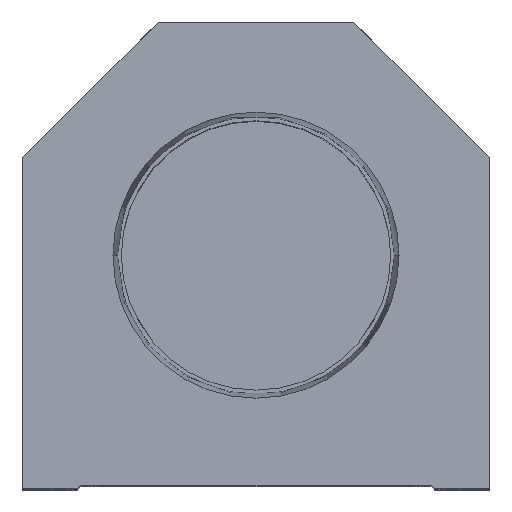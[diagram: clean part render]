
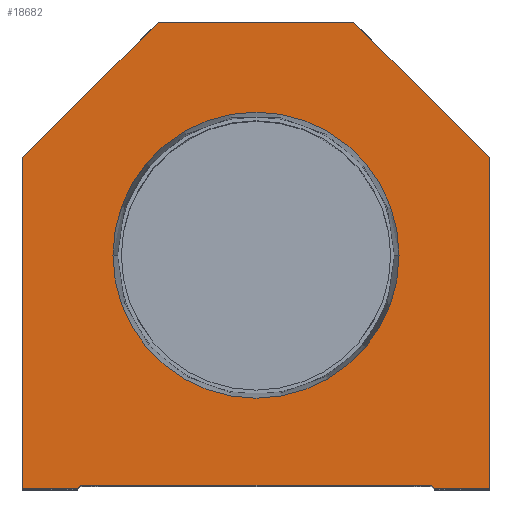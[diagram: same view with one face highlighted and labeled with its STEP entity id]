
A CAD part, top view. The second image highlights one B-rep face of the part: STEP entity #18682.
In plain terms, the highlighted planar face has unit normal (0, 0, 1).
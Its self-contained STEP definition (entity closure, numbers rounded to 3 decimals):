
#614 = DIRECTION ( 'NONE',  ( -0.707, 0.707, 0. ) ) ;
#1215 = ORIENTED_EDGE ( 'NONE', *, *, #19672, .T. ) ;
#1320 = ORIENTED_EDGE ( 'NONE', *, *, #14498, .T. ) ;
#1498 = VERTEX_POINT ( 'NONE', #19626 ) ;
#1716 = DIRECTION ( 'NONE',  ( 1., 0., 0. ) ) ;
#1758 = CARTESIAN_POINT ( 'NONE',  ( -28.6, 0.5, 0. ) ) ;
#1822 = CARTESIAN_POINT ( 'NONE',  ( 16., 76.2, 0. ) ) ;
#2070 = CARTESIAN_POINT ( 'NONE',  ( 28.6, 0.5, 0. ) ) ;
#2121 = VERTEX_POINT ( 'NONE', #2858 ) ;
#2299 = LINE ( 'NONE', #5696, #6453 ) ;
#2461 = CARTESIAN_POINT ( 'NONE',  ( -38.1, 54.1, 0. ) ) ;
#2470 = CARTESIAN_POINT ( 'NONE',  ( -38.1, 54.1, 0. ) ) ;
#2505 = ORIENTED_EDGE ( 'NONE', *, *, #7660, .T. ) ;
#2629 = VERTEX_POINT ( 'NONE', #13919 ) ;
#2662 = DIRECTION ( 'NONE',  ( -0.707, -0.707, 0. ) ) ;
#2858 = CARTESIAN_POINT ( 'NONE',  ( -16., 76.2, 0. ) ) ;
#2916 = CARTESIAN_POINT ( 'NONE',  ( 28.6, 0., 0. ) ) ;
#2929 = VERTEX_POINT ( 'NONE', #5834 ) ;
#3214 = FACE_BOUND ( 'NONE', #9977, .T. ) ;
#3226 = ORIENTED_EDGE ( 'NONE', *, *, #14580, .T. ) ;
#3283 = VECTOR ( 'NONE', #7947, 1000. ) ;
#3464 = ORIENTED_EDGE ( 'NONE', *, *, #4594, .T. ) ;
#3557 = CIRCLE ( 'NONE', #11622, 23.374 ) ;
#3567 = VECTOR ( 'NONE', #16802, 1000. ) ;
#4034 = DIRECTION ( 'NONE',  ( 0., 0., 1. ) ) ;
#4165 = VERTEX_POINT ( 'NONE', #2070 ) ;
#4429 = DIRECTION ( 'NONE',  ( 0.707, -0.707, 0. ) ) ;
#4544 = VERTEX_POINT ( 'NONE', #8872 ) ;
#4560 = CARTESIAN_POINT ( 'NONE',  ( -29.1, 0., 0. ) ) ;
#4594 = EDGE_CURVE ( 'NONE', #4165, #8596, #19813, .T. ) ;
#4610 = VECTOR ( 'NONE', #8267, 1000. ) ;
#4848 = VERTEX_POINT ( 'NONE', #7630 ) ;
#4872 = CIRCLE ( 'NONE', #14543, 23.374 ) ;
#4930 = EDGE_LOOP ( 'NONE', ( #1215, #3226, #16055, #3464, #19722, #1320, #6467, #2505, #9925, #9250 ) ) ;
#5495 = CARTESIAN_POINT ( 'NONE',  ( 29.1, 0., 0. ) ) ;
#5541 = VERTEX_POINT ( 'NONE', #2461 ) ;
#5569 = LINE ( 'NONE', #2470, #19459 ) ;
#5696 = CARTESIAN_POINT ( 'NONE',  ( -28.6, 0., 0. ) ) ;
#5817 = CARTESIAN_POINT ( 'NONE',  ( -14.55, 14.55, 0. ) ) ;
#5834 = CARTESIAN_POINT ( 'NONE',  ( 16., 76.2, 0. ) ) ;
#5838 = EDGE_CURVE ( 'NONE', #2629, #4544, #4872, .T. ) ;
#5993 = VECTOR ( 'NONE', #13725, 1000. ) ;
#6335 = CARTESIAN_POINT ( 'NONE',  ( -28.6, 0.5, 0. ) ) ;
#6448 = VECTOR ( 'NONE', #16334, 1000. ) ;
#6453 = VECTOR ( 'NONE', #12990, 1000. ) ;
#6467 = ORIENTED_EDGE ( 'NONE', *, *, #15529, .T. ) ;
#6519 = ORIENTED_EDGE ( 'NONE', *, *, #5838, .F. ) ;
#6569 = LINE ( 'NONE', #12631, #4610 ) ;
#7630 = CARTESIAN_POINT ( 'NONE',  ( -38.1, 0., 0. ) ) ;
#7660 = EDGE_CURVE ( 'NONE', #2929, #2121, #12880, .T. ) ;
#7947 = DIRECTION ( 'NONE',  ( -1., 0., 0. ) ) ;
#7965 = EDGE_CURVE ( 'NONE', #2121, #5541, #5569, .T. ) ;
#8267 = DIRECTION ( 'NONE',  ( 0., 1., 0. ) ) ;
#8469 = DIRECTION ( 'NONE',  ( 0.707, 0.707, 0. ) ) ;
#8596 = VERTEX_POINT ( 'NONE', #5495 ) ;
#8872 = CARTESIAN_POINT ( 'NONE',  ( -23.374, 38.1, 0. ) ) ;
#9250 = ORIENTED_EDGE ( 'NONE', *, *, #13667, .T. ) ;
#9491 = FACE_OUTER_BOUND ( 'NONE', #4930, .T. ) ;
#9778 = VECTOR ( 'NONE', #8469, 1000. ) ;
#9925 = ORIENTED_EDGE ( 'NONE', *, *, #7965, .T. ) ;
#9977 = EDGE_LOOP ( 'NONE', ( #6519, #17337 ) ) ;
#10994 = LINE ( 'NONE', #17184, #16255 ) ;
#11622 = AXIS2_PLACEMENT_3D ( 'NONE', #15055, #4034, #19612 ) ;
#11785 = LINE ( 'NONE', #19192, #6448 ) ;
#12602 = PLANE ( 'NONE',  #14299 ) ;
#12631 = CARTESIAN_POINT ( 'NONE',  ( 38.1, 0., 0. ) ) ;
#12814 = CARTESIAN_POINT ( 'NONE',  ( 0., 38.1, 0. ) ) ;
#12880 = LINE ( 'NONE', #1822, #3283 ) ;
#12990 = DIRECTION ( 'NONE',  ( 1., 0., 0. ) ) ;
#13667 = EDGE_CURVE ( 'NONE', #5541, #4848, #11785, .T. ) ;
#13725 = DIRECTION ( 'NONE',  ( 1., 0., 0. ) ) ;
#13752 = EDGE_CURVE ( 'NONE', #18730, #4165, #15310, .T. ) ;
#13919 = CARTESIAN_POINT ( 'NONE',  ( 23.374, 38.1, 0. ) ) ;
#14250 = DIRECTION ( 'NONE',  ( 0., 0., 1. ) ) ;
#14299 = AXIS2_PLACEMENT_3D ( 'NONE', #17176, #17070, #1716 ) ;
#14498 = EDGE_CURVE ( 'NONE', #1498, #15051, #6569, .T. ) ;
#14543 = AXIS2_PLACEMENT_3D ( 'NONE', #12814, #14250, #16179 ) ;
#14580 = EDGE_CURVE ( 'NONE', #16481, #18730, #16182, .T. ) ;
#15051 = VERTEX_POINT ( 'NONE', #17005 ) ;
#15055 = CARTESIAN_POINT ( 'NONE',  ( 0., 38.1, 0. ) ) ;
#15310 = LINE ( 'NONE', #1758, #3567 ) ;
#15375 = LINE ( 'NONE', #2916, #5993 ) ;
#15529 = EDGE_CURVE ( 'NONE', #15051, #2929, #10994, .T. ) ;
#16055 = ORIENTED_EDGE ( 'NONE', *, *, #13752, .T. ) ;
#16179 = DIRECTION ( 'NONE',  ( 1., 0., 0. ) ) ;
#16182 = LINE ( 'NONE', #5817, #9778 ) ;
#16255 = VECTOR ( 'NONE', #614, 1000. ) ;
#16334 = DIRECTION ( 'NONE',  ( 0., -1., 0. ) ) ;
#16481 = VERTEX_POINT ( 'NONE', #4560 ) ;
#16802 = DIRECTION ( 'NONE',  ( 1., 0., 0. ) ) ;
#17005 = CARTESIAN_POINT ( 'NONE',  ( 38.1, 54.1, 0. ) ) ;
#17070 = DIRECTION ( 'NONE',  ( 0., 0., 1. ) ) ;
#17176 = CARTESIAN_POINT ( 'NONE',  ( 0., 0., 0. ) ) ;
#17184 = CARTESIAN_POINT ( 'NONE',  ( 38.1, 54.1, 0. ) ) ;
#17337 = ORIENTED_EDGE ( 'NONE', *, *, #19196, .F. ) ;
#17726 = VECTOR ( 'NONE', #4429, 1000. ) ;
#17950 = EDGE_CURVE ( 'NONE', #8596, #1498, #15375, .T. ) ;
#18296 = CARTESIAN_POINT ( 'NONE',  ( 14.55, 14.55, 0. ) ) ;
#18682 = ADVANCED_FACE ( 'NONE', ( #3214, #9491 ), #12602, .T. ) ;
#18730 = VERTEX_POINT ( 'NONE', #6335 ) ;
#19192 = CARTESIAN_POINT ( 'NONE',  ( -38.1, 0., 0. ) ) ;
#19196 = EDGE_CURVE ( 'NONE', #4544, #2629, #3557, .T. ) ;
#19459 = VECTOR ( 'NONE', #2662, 1000. ) ;
#19612 = DIRECTION ( 'NONE',  ( 1., 0., 0. ) ) ;
#19626 = CARTESIAN_POINT ( 'NONE',  ( 38.1, 0., 0. ) ) ;
#19672 = EDGE_CURVE ( 'NONE', #4848, #16481, #2299, .T. ) ;
#19722 = ORIENTED_EDGE ( 'NONE', *, *, #17950, .T. ) ;
#19813 = LINE ( 'NONE', #18296, #17726 ) ;
